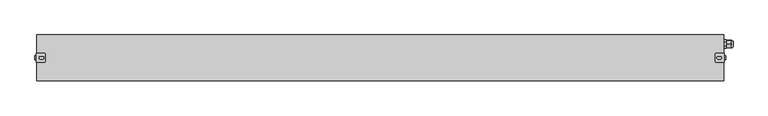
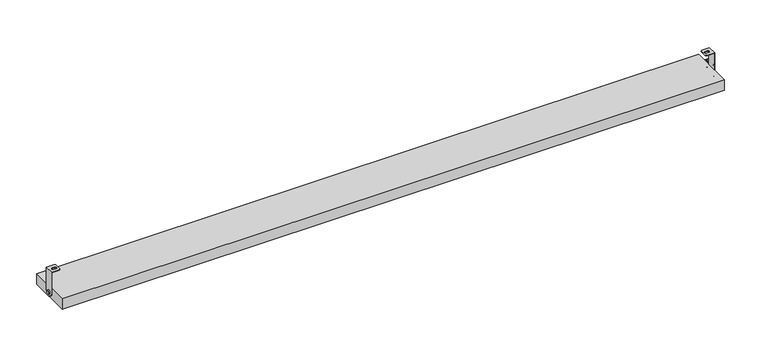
"""IFC4 building model written with IfcOpenShell, lengths in millimetres: light fixture geometry, GENILED_Светильник светодиодный_Titan Advanced : Titan Advanced 1500x100x25 60Вт IP66 Опал."""

from ifc_helpers import new_model, si_unit, point, frame, frame_2d, origin, origin_with_axes, place, context, project, spatial, polyline, circle_curve, ellipse_curve, trimmed, segment, composite_curve, outline, extrude, source, transform, mapped, element, save
from ifc_brep_helpers import plane_surface, cylinder_surface, revolved_surface, advanced_brep


def light_fixture_13f974ab(model_context):
    return source(origin(), model_context, "Body", "SolidModel", [
        advanced_brep(
        [(-734.0, 10.0, 64.5), (-751.0, 10.0, 64.5), (-751.0, -10.0, 64.5), (-734.0, -10.0, 64.5), (-731.0, -7.0, 64.5), (-731.0, 7.0, 64.5), (-737.0, 2.75, 64.5), (-737.0, -2.75, 64.5), (-742.0, -2.75, 64.5), (-742.0, 2.75, 64.5), (-734.0, -10.0, 63.5), (-750.0, -10.0, 63.5), (-750.0, 10.0, 63.5), (-734.0, 10.0, 63.5), (-731.0, 7.0, 63.5), (-731.0, -7.0, 63.5), (-737.0, 2.75, 63.5), (-742.0, 2.75, 63.5), (-742.0, -2.75, 63.5), (-737.0, -2.75, 63.5), (-751.0, -10.0, 12.5), (-750.0, -10.0, 12.5), (-751.0, 10.0, 12.5), (-751.0, 2.0, 4.5), (-751.0, -2.0, 4.5), (-751.0, 4.0, 12.5), (-751.0, -4.0, 12.5), (-750.0, 10.0, 12.5), (-750.0, -2.0, 4.5), (-750.0, 2.0, 4.5), (-754.0, -4.0, 12.5), (-754.0, 4.0, 12.5)],
        [
            (0, 1),
            (1, 2),
            (2, 3),
            (3, 4, circle_curve(frame((-734.0, -7.0, 64.5), z_axis=(0.0, 0.0, 1.0), x_axis=(-1.0, 0.0, 0.0)), 3.0)),
            (4, 5),
            (5, 0, circle_curve(frame((-734.0, 7.0, 64.5), z_axis=(0.0, 0.0, 1.0), x_axis=(-1.0, 0.0, 0.0)), 3.0)),
            (6, 7, circle_curve(frame((-737.0, 0.0, 64.5), z_axis=(0.0, 0.0, -1.0), x_axis=(-1.0, 0.0, 0.0)), 2.75)),
            (7, 8),
            (8, 9, circle_curve(frame((-742.0, 0.0, 64.5), z_axis=(0.0, 0.0, -1.0), x_axis=(-1.0, 0.0, 0.0)), 2.75)),
            (9, 6),
            (10, 11),
            (11, 12),
            (12, 13),
            (13, 14, circle_curve(frame((-734.0, 7.0, 63.5), z_axis=(0.0, 0.0, -1.0), x_axis=(-1.0, 0.0, 0.0)), 3.0)),
            (14, 15),
            (15, 10, circle_curve(frame((-734.0, -7.0, 63.5), z_axis=(0.0, 0.0, -1.0), x_axis=(-1.0, 0.0, 0.0)), 3.0)),
            (16, 17),
            (17, 18, circle_curve(frame((-742.0, 0.0, 63.5), z_axis=(0.0, 0.0, 1.0), x_axis=(-1.0, 0.0, 0.0)), 2.75)),
            (18, 19),
            (19, 16, circle_curve(frame((-737.0, 0.0, 63.5), z_axis=(0.0, 0.0, 1.0), x_axis=(-1.0, 0.0, 0.0)), 2.75)),
            (5, 14),
            (13, 0),
            (4, 15),
            (3, 10),
            (2, 20),
            (20, 21),
            (21, 11),
            (1, 22),
            (22, 23, circle_curve(frame((-751.0, 2.0, 12.5), z_axis=(-1.0, 0.0, 0.0), x_axis=(0.0, 1.0, 0.0)), 8.0)),
            (23, 24),
            (24, 20, circle_curve(frame((-751.0, -2.0, 12.5), z_axis=(-1.0, 0.0, 0.0), x_axis=(0.0, 1.0, 0.0)), 8.0)),
            (25, 26, circle_curve(frame((-751.0, 0.0, 12.5), z_axis=(1.0, 0.0, 0.0), x_axis=(0.0, 1.0, 0.0)), 4.0)),
            (26, 25, circle_curve(frame((-751.0, 0.0, 12.5), z_axis=(1.0, 0.0, 0.0), x_axis=(0.0, 1.0, 0.0)), 4.0)),
            (12, 27),
            (27, 22),
            (9, 17),
            (16, 6),
            (8, 18),
            (7, 19),
            (21, 28, circle_curve(frame((-750.0, -2.0, 12.5), z_axis=(1.0, 0.0, 0.0), x_axis=(0.0, 1.0, 0.0)), 8.0)),
            (28, 29),
            (29, 27, circle_curve(frame((-750.0, 2.0, 12.5), z_axis=(1.0, 0.0, 0.0), x_axis=(0.0, 1.0, 0.0)), 8.0)),
            (24, 28),
            (23, 29),
            (30, 31, circle_curve(frame((-754.0, 0.0, 12.5), z_axis=(-1.0, 0.0, 0.0), x_axis=(0.0, 1.0, 0.0)), 4.0)),
            (31, 30, circle_curve(frame((-754.0, 0.0, 12.5), z_axis=(-1.0, 0.0, 0.0), x_axis=(0.0, 1.0, 0.0)), 4.0)),
            (31, 25),
            (26, 30),
        ],
        [
            plane_surface(frame((-737.0, 7.0, 64.5), z_axis=(0.0, 0.0, 1.0), x_axis=(0.0, 1.0, 0.0))),
            plane_surface(frame((-737.0, 7.0, 63.5), z_axis=(0.0, 0.0, -1.0), x_axis=(0.0, -1.0, 0.0))),
            cylinder_surface(frame((-734.0, 7.0, 63.5), z_axis=(0.0, 0.0, 1.0), x_axis=(-1.0, 0.0, 0.0)), 3.0),
            plane_surface(frame((-731.0, 7.0, 64.5), z_axis=(1.0, 0.0, 0.0), x_axis=(0.0, 0.0, -1.0))),
            cylinder_surface(frame((-734.0, -7.0, 63.5), z_axis=(0.0, 0.0, 1.0), x_axis=(-1.0, 0.0, 0.0)), 3.0),
            plane_surface(frame((-734.0, -10.0, 64.5), z_axis=(0.0, -1.0, 0.0), x_axis=(0.0, 0.0, -1.0))),
            plane_surface(frame((-751.0, -10.0, 64.5), z_axis=(-1.0, 0.0, 0.0), x_axis=(0.0, 0.0, -1.0))),
            plane_surface(frame((-751.0, 10.0, 64.5), z_axis=(0.0, 1.0, 0.0), x_axis=(0.0, 0.0, -1.0))),
            plane_surface(frame((-737.0, 2.75, 64.5), z_axis=(0.0, -1.0, 0.0), x_axis=(0.0, 0.0, -1.0))),
            revolved_surface(polyline([(-744.75, 0.0, 63.5), (-744.75, 0.0, 64.5)]), (-742.0, 0.0, 12.5), (0.0, 0.0, -1.0)),
            plane_surface(frame((-742.0, -2.75, 64.5), z_axis=(0.0, 1.0, 0.0), x_axis=(0.0, 0.0, -1.0))),
            revolved_surface(polyline([(-739.75, 0.0, 63.5), (-739.75, 0.0, 64.5)]), (-737.0, 0.0, 12.5), (0.0, 0.0, -1.0)),
            plane_surface(frame((-750.0, -10.0, 64.5), z_axis=(1.0, 0.0, 0.0), x_axis=(0.0, 1.0, 0.0))),
            cylinder_surface(frame((-750.0, -2.0, 12.5), z_axis=(-1.0, 0.0, 0.0), x_axis=(0.0, 1.0, 0.0)), 8.0),
            plane_surface(frame((-751.0, -2.0, 4.5), z_axis=(0.0, 0.0, -1.0), x_axis=(1.0, 0.0, 0.0))),
            cylinder_surface(frame((-750.0, 2.0, 12.5), z_axis=(-1.0, 0.0, 0.0), x_axis=(0.0, 1.0, 0.0)), 8.0),
            plane_surface(frame((-754.0, 4.0, 12.5), z_axis=(-1.0, 0.0, 0.0), x_axis=(0.0, 0.0, 1.0))),
            cylinder_surface(frame((-751.0, 0.0, 12.5), z_axis=(-1.0, 0.0, 0.0), x_axis=(0.0, 1.0, 0.0)), 4.0),
        ],
        [
            (0, [[1, 2, 3, 4, 5, 6], [7, 8, 9, 10]]),
            (1, [[11, 12, 13, 14, 15, 16], [17, 18, 19, 20]]),
            (2, [[21, -14, 22, -6]]),
            (3, [[23, -15, -21, -5]]),
            (4, [[24, -16, -23, -4]]),
            (5, [[-3, 25, 26, 27, -11, -24]]),
            (6, [[28, 29, 30, 31, -25, -2], [32, 33]]),
            (7, [[-13, 34, 35, -28, -1, -22]]),
            (8, [[36, -17, 37, -10]]),
            (9, [[38, -18, -36, -9]]),
            (10, [[39, -19, -38, -8]]),
            (11, [[-37, -20, -39, -7]]),
            (12, [[-34, -12, -27, 40, 41, 42]]),
            (13, [[43, -40, -26, -31]]),
            (14, [[44, -41, -43, -30]]),
            (15, [[-35, -42, -44, -29]]),
            (16, [[45, 46]]),
            (17, [[47, -33, 48, -46]]),
            (17, [[-48, -32, -47, -45]]),
        ],
    ),
        advanced_brep(
        [(734.0, 10.0, 64.5), (731.0, 7.0, 64.5), (731.0, -7.0, 64.5), (734.0, -10.0, 64.5), (751.0, -10.0, 64.5), (751.0, 10.0, 64.5), (737.0, 2.75, 64.5), (742.0, 2.75, 64.5), (742.0, -2.75, 64.5), (737.0, -2.75, 64.5), (734.0, -10.0, 63.5), (731.0, -7.0, 63.5), (731.0, 7.0, 63.5), (734.0, 10.0, 63.5), (750.0, 10.0, 63.5), (750.0, -10.0, 63.5), (737.0, 2.75, 63.5), (737.0, -2.75, 63.5), (742.0, -2.75, 63.5), (742.0, 2.75, 63.5), (750.0, -10.0, 12.5), (751.0, -10.0, 12.5), (751.0, -2.0, 4.5), (751.0, 2.0, 4.5), (751.0, 10.0, 12.5), (751.0, 4.0, 12.5), (751.0, -4.0, 12.5), (750.0, 10.0, 12.5), (750.0, 2.0, 4.5), (750.0, -2.0, 4.5), (754.0, -4.0, 12.5), (754.0, 4.0, 12.5)],
        [
            (0, 1, circle_curve(frame((734.0, 7.0, 64.5), z_axis=(0.0, 0.0, 1.0), x_axis=(1.0, 0.0, 0.0)), 3.0)),
            (1, 2),
            (2, 3, circle_curve(frame((734.0, -7.0, 64.5), z_axis=(0.0, 0.0, 1.0), x_axis=(1.0, 0.0, 0.0)), 3.0)),
            (3, 4),
            (4, 5),
            (5, 0),
            (6, 7),
            (7, 8, circle_curve(frame((742.0, 0.0, 64.5), z_axis=(0.0, 0.0, -1.0), x_axis=(1.0, 0.0, 0.0)), 2.75)),
            (8, 9),
            (9, 6, circle_curve(frame((737.0, 0.0, 64.5), z_axis=(0.0, 0.0, -1.0), x_axis=(1.0, 0.0, 0.0)), 2.75)),
            (10, 11, circle_curve(frame((734.0, -7.0, 63.5), z_axis=(0.0, 0.0, -1.0), x_axis=(1.0, 0.0, 0.0)), 3.0)),
            (11, 12),
            (12, 13, circle_curve(frame((734.0, 7.0, 63.5), z_axis=(0.0, 0.0, -1.0), x_axis=(1.0, 0.0, 0.0)), 3.0)),
            (13, 14),
            (14, 15),
            (15, 10),
            (16, 17, circle_curve(frame((737.0, 0.0, 63.5), z_axis=(0.0, 0.0, 1.0), x_axis=(1.0, 0.0, 0.0)), 2.75)),
            (17, 18),
            (18, 19, circle_curve(frame((742.0, 0.0, 63.5), z_axis=(0.0, 0.0, 1.0), x_axis=(1.0, 0.0, 0.0)), 2.75)),
            (19, 16),
            (0, 13),
            (12, 1),
            (11, 2),
            (10, 3),
            (15, 20),
            (20, 21),
            (21, 4),
            (21, 22, circle_curve(frame((751.0, -2.0, 12.5), z_axis=(1.0, 0.0, 0.0), x_axis=(0.0, 1.0, 0.0)), 8.0)),
            (22, 23),
            (23, 24, circle_curve(frame((751.0, 2.0, 12.5), z_axis=(1.0, 0.0, 0.0), x_axis=(0.0, 1.0, 0.0)), 8.0)),
            (24, 5),
            (25, 26, circle_curve(frame((751.0, 0.0, 12.5), z_axis=(-1.0, 0.0, 0.0), x_axis=(0.0, 1.0, 0.0)), 4.0)),
            (26, 25, circle_curve(frame((751.0, 0.0, 12.5), z_axis=(-1.0, 0.0, 0.0), x_axis=(0.0, 1.0, 0.0)), 4.0)),
            (24, 27),
            (27, 14),
            (6, 16),
            (19, 7),
            (18, 8),
            (17, 9),
            (27, 28, circle_curve(frame((750.0, 2.0, 12.5), z_axis=(-1.0, 0.0, 0.0), x_axis=(0.0, 1.0, 0.0)), 8.0)),
            (28, 29),
            (29, 20, circle_curve(frame((750.0, -2.0, 12.5), z_axis=(-1.0, 0.0, 0.0), x_axis=(0.0, 1.0, 0.0)), 8.0)),
            (29, 22),
            (28, 23),
            (30, 31, circle_curve(frame((754.0, 0.0, 12.5), z_axis=(1.0, 0.0, 0.0), x_axis=(0.0, 1.0, 0.0)), 4.0)),
            (31, 30, circle_curve(frame((754.0, 0.0, 12.5), z_axis=(1.0, 0.0, 0.0), x_axis=(0.0, 1.0, 0.0)), 4.0)),
            (30, 26),
            (25, 31),
        ],
        [
            plane_surface(frame((737.0, 7.0, 64.5), z_axis=(0.0, 0.0, 1.0), x_axis=(0.0, 1.0, 0.0))),
            plane_surface(frame((737.0, 7.0, 63.5), z_axis=(0.0, 0.0, -1.0), x_axis=(0.0, -1.0, 0.0))),
            cylinder_surface(frame((734.0, 7.0, 63.5), z_axis=(0.0, 0.0, 1.0), x_axis=(1.0, 0.0, 0.0)), 3.0),
            plane_surface(frame((731.0, 7.0, 64.5), z_axis=(-1.0, 0.0, 0.0), x_axis=(0.0, 0.0, -1.0))),
            cylinder_surface(frame((734.0, -7.0, 63.5), z_axis=(0.0, 0.0, 1.0), x_axis=(1.0, 0.0, 0.0)), 3.0),
            plane_surface(frame((734.0, -10.0, 64.5), z_axis=(0.0, -1.0, 0.0), x_axis=(0.0, 0.0, -1.0))),
            plane_surface(frame((751.0, -10.0, 64.5), z_axis=(1.0, 0.0, 0.0), x_axis=(0.0, 0.0, -1.0))),
            plane_surface(frame((751.0, 10.0, 64.5), z_axis=(0.0, 1.0, 0.0), x_axis=(0.0, 0.0, -1.0))),
            plane_surface(frame((737.0, 2.75, 64.5), z_axis=(0.0, -1.0, 0.0), x_axis=(0.0, 0.0, -1.0))),
            revolved_surface(polyline([(744.75, 0.0, 63.5), (744.75, 0.0, 64.5)]), (742.0, 0.0, 12.5), (0.0, 0.0, -1.0)),
            plane_surface(frame((742.0, -2.75, 64.5), z_axis=(0.0, 1.0, 0.0), x_axis=(0.0, 0.0, -1.0))),
            revolved_surface(polyline([(739.75, 0.0, 63.5), (739.75, 0.0, 64.5)]), (737.0, 0.0, 12.5), (0.0, 0.0, -1.0)),
            plane_surface(frame((750.0, -10.0, 64.5), z_axis=(-1.0, 0.0, 0.0), x_axis=(0.0, 1.0, 0.0))),
            cylinder_surface(frame((750.0, -2.0, 12.5), z_axis=(1.0, 0.0, 0.0), x_axis=(0.0, 1.0, 0.0)), 8.0),
            plane_surface(frame((751.0, -2.0, 4.5), z_axis=(0.0, 0.0, -1.0), x_axis=(-1.0, 0.0, 0.0))),
            cylinder_surface(frame((750.0, 2.0, 12.5), z_axis=(1.0, 0.0, 0.0), x_axis=(0.0, 1.0, 0.0)), 8.0),
            plane_surface(frame((754.0, 4.0, 12.5), z_axis=(1.0, 0.0, 0.0), x_axis=(0.0, 0.0, 1.0))),
            cylinder_surface(frame((751.0, 0.0, 12.5), z_axis=(1.0, 0.0, 0.0), x_axis=(0.0, 1.0, 0.0)), 4.0),
        ],
        [
            (0, [[1, 2, 3, 4, 5, 6], [7, 8, 9, 10]]),
            (1, [[11, 12, 13, 14, 15, 16], [17, 18, 19, 20]]),
            (2, [[-1, 21, -13, 22]]),
            (3, [[-2, -22, -12, 23]]),
            (4, [[-3, -23, -11, 24]]),
            (5, [[-24, -16, 25, 26, 27, -4]]),
            (6, [[-5, -27, 28, 29, 30, 31], [32, 33]]),
            (7, [[-21, -6, -31, 34, 35, -14]]),
            (8, [[-7, 36, -20, 37]]),
            (9, [[-8, -37, -19, 38]]),
            (10, [[-9, -38, -18, 39]]),
            (11, [[-10, -39, -17, -36]]),
            (12, [[40, 41, 42, -25, -15, -35]]),
            (13, [[-28, -26, -42, 43]]),
            (14, [[-29, -43, -41, 44]]),
            (15, [[-30, -44, -40, -34]]),
            (16, [[45, 46]]),
            (17, [[-45, 47, -32, 48]]),
            (17, [[-46, -48, -33, -47]]),
        ],
    ),
        advanced_brep(
        [(770.0120269, 24.15, 12.5), (770.0120269, 35.85, 12.5), (770.0120269, 33.5, 12.5), (770.0120269, 26.5, 12.5), (766.0120269, 22.0, 12.5), (766.0120269, 26.0, 5.5717968), (766.0120269, 34.0, 5.5717968), (766.0120269, 38.0, 12.5), (766.0120269, 34.0, 19.4282032), (766.0120269, 26.0, 19.4282032), (766.0120269, 33.5, 12.5), (766.0120269, 26.5, 12.5), (766.0120269, 22.0, 8.3768944), (766.0120269, 22.4292858, 7.6333496), (766.0120269, 29.5707142, 3.510244), (766.0120269, 30.4292858, 3.510244), (766.0120269, 37.5707142, 7.6333496), (766.0120269, 38.0, 8.3768944), (766.0120269, 38.0, 16.6231056), (766.0120269, 37.5707142, 17.3666504), (766.0120269, 30.4292858, 21.489756), (766.0120269, 29.5707142, 21.489756), (766.0120269, 22.4292858, 17.3666504), (766.0120269, 22.0, 16.6231056), (756.6, 29.5707142, 3.510244), (756.6, 22.4292858, 7.6333496), (756.6, 22.0, 8.3768944), (756.6, 22.0, 16.6231056), (756.6, 22.4292858, 17.3666504), (756.6, 29.5707142, 21.489756), (756.6, 30.4292858, 21.489756), (756.6, 37.5707142, 17.3666504), (756.6, 38.0, 16.6231056), (756.6, 38.0, 8.3768944), (756.6, 37.5707142, 7.6333496), (756.6, 30.4292858, 3.510244), (756.6, 37.25, 12.5), (756.6, 22.75, 12.5), (754.6, 37.25, 12.5), (754.6, 22.75, 12.5), (754.6, 38.989756, 12.9292858), (754.6, 34.8666504, 20.0707142), (754.6, 34.1231056, 20.5), (754.6, 25.8768944, 20.5), (754.6, 25.1333496, 20.0707142), (754.6, 21.010244, 12.9292858), (754.6, 21.0, 12.5), (754.6, 21.010244, 12.0707142), (754.6, 25.1333496, 4.9292858), (754.6, 25.8768944, 4.5), (754.6, 34.1231056, 4.5), (754.6, 34.8666504, 4.9292858), (754.6, 38.989756, 12.0707142), (754.6, 39.0, 12.5), (750.0, 38.989756, 12.0707142), (750.0, 34.8666504, 4.9292858), (750.0, 34.1231056, 4.5), (750.0, 25.8768944, 4.5), (750.0, 25.1333496, 4.9292858), (750.0, 21.010244, 12.0707142), (750.0, 21.0, 12.5), (750.0, 21.010244, 12.9292858), (750.0, 25.1333496, 20.0707142), (750.0, 25.8768944, 20.5), (750.0, 34.1231056, 20.5), (750.0, 34.8666504, 20.0707142), (750.0, 38.989756, 12.9292858), (750.0, 39.0, 12.5)],
        [
            (0, 1, circle_curve(frame((770.0120269, 30.0, 12.5), z_axis=(1.0, 0.0, 0.0), x_axis=(0.0, 1.0, 0.0)), 5.85)),
            (1, 2),
            (2, 3, circle_curve(frame((770.0120269, 30.0, 12.5), z_axis=(-1.0, 0.0, 0.0), x_axis=(0.0, 1.0, 0.0)), 3.5)),
            (3, 0),
            (1, 0, circle_curve(frame((770.0120269, 30.0, 12.5), z_axis=(1.0, 0.0, 0.0), x_axis=(0.0, 1.0, 0.0)), 5.85)),
            (3, 2, circle_curve(frame((770.0120269, 30.0, 12.5), z_axis=(-1.0, 0.0, 0.0), x_axis=(0.0, 1.0, 0.0)), 3.5)),
            (0, 4, circle_curve(frame((765.6269324, 27.5123851, 12.5), z_axis=(0.0, 0.0, -1.0), x_axis=(0.0, 1.0, 0.0)), 5.5258201)),
            (4, 5, circle_curve(frame((766.0120269, 30.0, 12.5), z_axis=(1.0, 0.0, 0.0), x_axis=(0.0, 1.0, 0.0)), 8.0)),
            (5, 6, circle_curve(frame((766.0120269, 30.0, 12.5), z_axis=(1.0, 0.0, 0.0), x_axis=(0.0, 1.0, 0.0)), 8.0)),
            (6, 7, circle_curve(frame((766.0120269, 30.0, 12.5), z_axis=(1.0, 0.0, 0.0), x_axis=(0.0, 1.0, 0.0)), 8.0)),
            (7, 1, circle_curve(frame((765.6269324, 32.4876149, 12.5), z_axis=(0.0, 0.0, -1.0), x_axis=(0.0, -1.0, 0.0)), 5.5258201)),
            (7, 8, circle_curve(frame((766.0120269, 30.0, 12.5), z_axis=(1.0, 0.0, 0.0), x_axis=(0.0, 1.0, 0.0)), 8.0)),
            (8, 9, circle_curve(frame((766.0120269, 30.0, 12.5), z_axis=(1.0, 0.0, 0.0), x_axis=(0.0, 1.0, 0.0)), 8.0)),
            (9, 4, circle_curve(frame((766.0120269, 30.0, 12.5), z_axis=(1.0, 0.0, 0.0), x_axis=(0.0, 1.0, 0.0)), 8.0)),
            (2, 10),
            (10, 11, circle_curve(frame((766.0120269, 30.0, 12.5), z_axis=(-1.0, 0.0, 0.0), x_axis=(0.0, 1.0, 0.0)), 3.5)),
            (11, 3),
            (11, 10, circle_curve(frame((766.0120269, 30.0, 12.5), z_axis=(-1.0, 0.0, 0.0), x_axis=(0.0, 1.0, 0.0)), 3.5)),
            (4, 12),
            (12, 13, circle_curve(frame((766.0120269, 30.0, 12.5), z_axis=(1.0, 0.0, 0.0), x_axis=(0.0, -1.0, 0.0)), 9.0)),
            (13, 5),
            (5, 14),
            (14, 15, circle_curve(frame((766.0120269, 30.0, 12.5), z_axis=(1.0, 0.0, 0.0), x_axis=(0.0, -1.0, 0.0)), 9.0)),
            (15, 6),
            (6, 16),
            (16, 17, circle_curve(frame((766.0120269, 30.0, 12.5), z_axis=(1.0, 0.0, 0.0), x_axis=(0.0, -1.0, 0.0)), 9.0)),
            (17, 7),
            (7, 18),
            (18, 19, circle_curve(frame((766.0120269, 30.0, 12.5), z_axis=(1.0, 0.0, 0.0), x_axis=(0.0, -1.0, 0.0)), 9.0)),
            (19, 8),
            (8, 20),
            (20, 21, circle_curve(frame((766.0120269, 30.0, 12.5), z_axis=(1.0, 0.0, 0.0), x_axis=(0.0, -1.0, 0.0)), 9.0)),
            (21, 9),
            (9, 22),
            (22, 23, circle_curve(frame((766.0120269, 30.0, 12.5), z_axis=(1.0, 0.0, 0.0), x_axis=(0.0, -1.0, 0.0)), 9.0)),
            (23, 4),
            (24, 25),
            (25, 26, circle_curve(frame((756.6, 30.0, 12.5), z_axis=(-1.0, 0.0, 0.0), x_axis=(0.0, -1.0, 0.0)), 9.0)),
            (26, 27),
            (27, 28, circle_curve(frame((756.6, 30.0, 12.5), z_axis=(-1.0, 0.0, 0.0), x_axis=(0.0, -1.0, 0.0)), 9.0)),
            (28, 29),
            (29, 30, circle_curve(frame((756.6, 30.0, 12.5), z_axis=(-1.0, 0.0, 0.0), x_axis=(0.0, -1.0, 0.0)), 9.0)),
            (30, 31),
            (31, 32, circle_curve(frame((756.6, 30.0, 12.5), z_axis=(-1.0, 0.0, 0.0), x_axis=(0.0, -1.0, 0.0)), 9.0)),
            (32, 33),
            (33, 34, circle_curve(frame((756.6, 30.0, 12.5), z_axis=(-1.0, 0.0, 0.0), x_axis=(0.0, -1.0, 0.0)), 9.0)),
            (34, 35),
            (35, 24, circle_curve(frame((756.6, 30.0, 12.5), z_axis=(-1.0, 0.0, 0.0), x_axis=(0.0, -1.0, 0.0)), 9.0)),
            (36, 37, circle_curve(frame((756.6, 30.0, 12.5), z_axis=(1.0, 0.0, 0.0), x_axis=(0.0, -1.0, 0.0)), 7.25)),
            (37, 36, circle_curve(frame((756.6, 30.0, 12.5), z_axis=(1.0, 0.0, 0.0), x_axis=(0.0, -1.0, 0.0)), 7.25)),
            (15, 35),
            (34, 16),
            (17, 33),
            (32, 18),
            (19, 31),
            (30, 20),
            (21, 29),
            (28, 22),
            (23, 27),
            (26, 12),
            (13, 25),
            (24, 14),
            (36, 38),
            (38, 39, circle_curve(frame((754.6, 30.0, 12.5), z_axis=(1.0, 0.0, 0.0), x_axis=(0.0, -1.0, 0.0)), 7.25)),
            (39, 37),
            (39, 38, circle_curve(frame((754.6, 30.0, 12.5), z_axis=(1.0, 0.0, 0.0), x_axis=(0.0, -1.0, 0.0)), 7.25)),
            (40, 41),
            (41, 42, circle_curve(frame((754.6, 30.0, 12.5), z_axis=(1.0, 0.0, 0.0), x_axis=(0.0, -1.0, 0.0)), 9.0)),
            (42, 43),
            (43, 44, circle_curve(frame((754.6, 30.0, 12.5), z_axis=(1.0, 0.0, 0.0), x_axis=(0.0, -1.0, 0.0)), 9.0)),
            (44, 45),
            (45, 46, circle_curve(frame((754.6, 30.0, 12.5), z_axis=(1.0, 0.0, 0.0), x_axis=(0.0, -1.0, 0.0)), 9.0)),
            (46, 47, circle_curve(frame((754.6, 30.0, 12.5), z_axis=(1.0, 0.0, 0.0), x_axis=(0.0, -1.0, 0.0)), 9.0)),
            (47, 48),
            (48, 49, circle_curve(frame((754.6, 30.0, 12.5), z_axis=(1.0, 0.0, 0.0), x_axis=(0.0, -1.0, 0.0)), 9.0)),
            (49, 50),
            (50, 51, circle_curve(frame((754.6, 30.0, 12.5), z_axis=(1.0, 0.0, 0.0), x_axis=(0.0, -1.0, 0.0)), 9.0)),
            (51, 52),
            (52, 53, circle_curve(frame((754.6, 30.0, 12.5), z_axis=(1.0, 0.0, 0.0), x_axis=(0.0, -1.0, 0.0)), 9.0)),
            (53, 40, circle_curve(frame((754.6, 30.0, 12.5), z_axis=(1.0, 0.0, 0.0), x_axis=(0.0, -1.0, 0.0)), 9.0)),
            (54, 55),
            (55, 56, circle_curve(frame((750.0, 30.0, 12.5), z_axis=(-1.0, 0.0, 0.0), x_axis=(0.0, -1.0, 0.0)), 9.0)),
            (56, 57),
            (57, 58, circle_curve(frame((750.0, 30.0, 12.5), z_axis=(-1.0, 0.0, 0.0), x_axis=(0.0, -1.0, 0.0)), 9.0)),
            (58, 59),
            (59, 60, circle_curve(frame((750.0, 30.0, 12.5), z_axis=(-1.0, 0.0, 0.0), x_axis=(0.0, -1.0, 0.0)), 9.0)),
            (60, 61, circle_curve(frame((750.0, 30.0, 12.5), z_axis=(-1.0, 0.0, 0.0), x_axis=(0.0, -1.0, 0.0)), 9.0)),
            (61, 62),
            (62, 63, circle_curve(frame((750.0, 30.0, 12.5), z_axis=(-1.0, 0.0, 0.0), x_axis=(0.0, -1.0, 0.0)), 9.0)),
            (63, 64),
            (64, 65, circle_curve(frame((750.0, 30.0, 12.5), z_axis=(-1.0, 0.0, 0.0), x_axis=(0.0, -1.0, 0.0)), 9.0)),
            (65, 66),
            (66, 67, circle_curve(frame((750.0, 30.0, 12.5), z_axis=(-1.0, 0.0, 0.0), x_axis=(0.0, -1.0, 0.0)), 9.0)),
            (67, 54, circle_curve(frame((750.0, 30.0, 12.5), z_axis=(-1.0, 0.0, 0.0), x_axis=(0.0, -1.0, 0.0)), 9.0)),
            (40, 66),
            (65, 41),
            (42, 64),
            (63, 43),
            (44, 62),
            (61, 45),
            (47, 59),
            (58, 48),
            (49, 57),
            (56, 50),
            (51, 55),
            (54, 52),
            (67, 53),
            (46, 60),
        ],
        [
            plane_surface(frame((770.0120269, 30.0, 12.5), z_axis=(1.0, 0.0, 0.0), x_axis=(0.0, 1.0, 0.0))),
            revolved_surface(trimmed(ellipse_curve(frame((765.6269324, 32.4876149, 12.5), z_axis=(0.0, 0.0, 1.0), x_axis=(0.0, -1.0, 0.0)), 5.5258201, 5.5258201), [point((770.0120269, 35.85, 12.5))], [point((766.0120269, 38.0, 12.5))], True, "CARTESIAN"), (766.0120269, 30.0, 12.5), (-1.0, 0.0, 0.0)),
            revolved_surface(polyline([(766.0120269, 33.5, 12.5), (770.0120269, 33.5, 12.5)]), (766.0120269, 30.0, 12.5), (-1.0, 0.0, 0.0)),
            plane_surface(frame((766.0120269, 30.0, 3.2623957), z_axis=(1.0000000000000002, 0.0, 0.0), x_axis=(0.0, 0.8660254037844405, 0.49999999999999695))),
            plane_surface(frame((756.6, 30.0, 3.2623957), z_axis=(-1.0000000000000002, 0.0, 0.0), x_axis=(0.0, -0.8660254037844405, -0.49999999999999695))),
            plane_surface(frame((766.0120269, 30.0, 3.2623957), z_axis=(0.0, 0.49999999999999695, -0.8660254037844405), x_axis=(-1.0, 0.0, 0.0))),
            plane_surface(frame((766.0120269, 38.0, 7.8811978), z_axis=(0.0, 1.0, 0.0), x_axis=(-1.0, 0.0, 0.0))),
            plane_surface(frame((766.0120269, 38.0, 17.1188022), z_axis=(0.0, 0.5000000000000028, 0.8660254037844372), x_axis=(-1.0, 0.0, 0.0))),
            plane_surface(frame((766.0120269, 30.0, 21.7376043), z_axis=(0.0, -0.49999999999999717, 0.8660254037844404), x_axis=(-1.0, 0.0, 0.0))),
            plane_surface(frame((766.0120269, 22.0, 17.1188022), z_axis=(0.0, -1.0, 0.0), x_axis=(-1.0, 0.0, 0.0))),
            plane_surface(frame((766.0120269, 22.0, 7.8811978), z_axis=(0.0, -0.5000000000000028, -0.8660254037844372), x_axis=(-1.0, 0.0, 0.0))),
            cylinder_surface(frame((754.6, 30.0, 12.5), z_axis=(1.0, 0.0, 0.0), x_axis=(0.0, -1.0, 0.0)), 7.25),
            plane_surface(frame((754.6, 39.2376043, 12.5), z_axis=(1.0, 0.0, 0.0), x_axis=(0.0, -0.5000000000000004, 0.8660254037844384))),
            plane_surface(frame((750.0, 39.2376043, 12.5), z_axis=(-1.0, 0.0, 0.0), x_axis=(0.0, 0.5000000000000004, -0.8660254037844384))),
            plane_surface(frame((754.6, 39.2376043, 12.5), z_axis=(0.0, 0.8660254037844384, 0.5000000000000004), x_axis=(-1.0, 0.0, 0.0))),
            plane_surface(frame((754.6, 34.6188022, 20.5), z_axis=(0.0, 0.0, 1.0), x_axis=(-1.0, 0.0, 0.0))),
            plane_surface(frame((754.6, 25.3811978, 20.5), z_axis=(0.0, -0.866025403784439, 0.49999999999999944), x_axis=(-1.0, 0.0, 0.0))),
            plane_surface(frame((754.6, 20.7623957, 12.5), z_axis=(0.0, -0.8660254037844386, -0.5000000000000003), x_axis=(-1.0, 0.0, 0.0))),
            plane_surface(frame((754.6, 25.3811978, 4.5), z_axis=(0.0, 0.0, -1.0), x_axis=(-1.0, 0.0, 0.0))),
            plane_surface(frame((754.6, 34.6188022, 4.5), z_axis=(0.0, 0.8660254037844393, -0.49999999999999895), x_axis=(-1.0, 0.0, 0.0))),
            cylinder_surface(frame((750.0, 30.0, 12.5), z_axis=(-1.0, 0.0, 0.0), x_axis=(0.0, -1.0, 0.0)), 9.0),
        ],
        [
            (0, [[1, 2, 3, 4]]),
            (0, [[-2, 5, -4, 6]]),
            (1, [[-1, 7, 8, 9, 10, 11]]),
            (1, [[-5, -11, 12, 13, 14, -7]]),
            (2, [[-3, 15, 16, 17]]),
            (2, [[-6, -17, 18, -15]]),
            (3, [[-8, 19, 20, 21]]),
            (3, [[-9, 22, 23, 24]]),
            (3, [[-10, 25, 26, 27]]),
            (3, [[-12, 28, 29, 30]]),
            (3, [[-13, 31, 32, 33]]),
            (3, [[-14, 34, 35, 36]]),
            (3, [[-16, -18]]),
            (4, [[37, 38, 39, 40, 41, 42, 43, 44, 45, 46, 47, 48], [49, 50]]),
            (5, [[-25, -24, 51, -47, 52]]),
            (6, [[-27, 53, -45, 54, -28]]),
            (7, [[-30, 55, -43, 56, -31]]),
            (8, [[-34, -33, 57, -41, 58]]),
            (9, [[-36, 59, -39, 60, -19]]),
            (10, [[-21, 61, -37, 62, -22]]),
            (11, [[63, 64, 65, -49]]),
            (11, [[-63, -50, -65, 66]]),
            (12, [[67, 68, 69, 70, 71, 72, 73, 74, 75, 76, 77, 78, 79, 80], [-64, -66]]),
            (13, [[81, 82, 83, 84, 85, 86, 87, 88, 89, 90, 91, 92, 93, 94]]),
            (14, [[-67, 95, -92, 96]]),
            (15, [[-69, 97, -90, 98]]),
            (16, [[-71, 99, -88, 100]]),
            (17, [[-74, 101, -85, 102]]),
            (18, [[-76, 103, -83, 104]]),
            (19, [[-78, 105, -81, 106]]),
            (20, [[-20, -60, -38, -61]]),
            (20, [[-23, -62, -48, -51]]),
            (20, [[-26, -52, -46, -53]]),
            (20, [[-75, -102, -84, -103]]),
            (20, [[-77, -104, -82, -105]]),
            (20, [[107, -79, -106, -94]]),
            (20, [[108, -86, -101, -73]]),
            (20, [[-29, -54, -44, -55]]),
            (20, [[-32, -56, -42, -57]]),
            (20, [[-35, -58, -40, -59]]),
            (20, [[-68, -96, -91, -97]]),
            (20, [[-70, -98, -89, -99]]),
            (20, [[-107, -93, -95, -80]]),
            (20, [[-108, -72, -100, -87]]),
        ],
    ),
        advanced_brep(
        [(750.0, 50.0, 25.0), (-750.0, 50.0, 25.0), (-750.0, -50.0, 25.0), (750.0, -50.0, 25.0), (750.0, 50.0, 0.0), (750.0, -50.0, 0.0), (-750.0, -50.0, 0.0), (-750.0, 50.0, 0.0), (720.0, 35.0, 0.0), (-720.0, 35.0, 0.0), (-735.0, 20.0, 0.0), (-735.0, -20.0, 0.0), (-720.0, -35.0, 0.0), (720.0, -35.0, 0.0), (735.0, -20.0, 0.0), (735.0, 20.0, 0.0), (735.0, 20.0, 5.0), (720.0, 35.0, 5.0), (735.0, -20.0, 5.0), (720.0, -35.0, 5.0), (-720.0, -35.0, 5.0), (-735.0, -20.0, 5.0), (-735.0, 20.0, 5.0), (-720.0, 35.0, 5.0)],
        [
            (0, 1),
            (1, 2),
            (2, 3),
            (3, 0),
            (4, 5),
            (5, 6),
            (6, 7),
            (7, 4),
            (8, 9),
            (9, 10, circle_curve(frame((-720.0, 20.0, 0.0), z_axis=(0.0, 0.0, 1.0), x_axis=(1.0, 0.0, 0.0)), 15.0)),
            (10, 11),
            (11, 12, circle_curve(frame((-720.0, -20.0, 0.0), z_axis=(0.0, 0.0, 1.0), x_axis=(1.0, 0.0, 0.0)), 15.0)),
            (12, 13),
            (13, 14, circle_curve(frame((720.0, -20.0, 0.0), z_axis=(0.0, 0.0, 1.0), x_axis=(1.0, 0.0, 0.0)), 15.0)),
            (14, 15),
            (15, 8, circle_curve(frame((720.0, 20.0, 0.0), z_axis=(0.0, 0.0, 1.0), x_axis=(1.0, 0.0, 0.0)), 15.0)),
            (0, 4),
            (7, 1),
            (6, 2),
            (5, 3),
            (15, 16),
            (16, 17, circle_curve(frame((720.0, 20.0, 5.0), z_axis=(0.0, 0.0, 1.0), x_axis=(1.0, 0.0, 0.0)), 15.0)),
            (17, 8),
            (14, 18),
            (18, 16),
            (13, 19),
            (19, 18, circle_curve(frame((720.0, -20.0, 5.0), z_axis=(0.0, 0.0, 1.0), x_axis=(1.0, 0.0, 0.0)), 15.0)),
            (12, 20),
            (20, 19),
            (11, 21),
            (21, 20, circle_curve(frame((-720.0, -20.0, 5.0), z_axis=(0.0, 0.0, 1.0), x_axis=(1.0, 0.0, 0.0)), 15.0)),
            (10, 22),
            (22, 21),
            (9, 23),
            (23, 22, circle_curve(frame((-720.0, 20.0, 5.0), z_axis=(0.0, 0.0, 1.0), x_axis=(1.0, 0.0, 0.0)), 15.0)),
            (17, 23),
        ],
        [
            plane_surface(frame((-750.0, 50.0, 25.0), z_axis=(0.0, 0.0, 1.0), x_axis=(-1.0, 0.0, 0.0))),
            plane_surface(frame((-750.0, 50.0, 0.0), z_axis=(0.0, 0.0, -1.0), x_axis=(1.0, 0.0, 0.0))),
            plane_surface(frame((750.0, 50.0, 25.0), z_axis=(0.0, 1.0, 0.0), x_axis=(0.0, 0.0, -1.0))),
            plane_surface(frame((-750.0, 50.0, 25.0), z_axis=(-1.0, 0.0, 0.0), x_axis=(0.0, 0.0, -1.0))),
            plane_surface(frame((-750.0, -50.0, 25.0), z_axis=(0.0, -1.0, 0.0), x_axis=(0.0, 0.0, -1.0))),
            plane_surface(frame((750.0, -50.0, 25.0), z_axis=(1.0, 0.0, 0.0), x_axis=(0.0, 0.0, -1.0))),
            revolved_surface(polyline([(735.0, 20.0, 0.0), (735.0, 20.0, 5.0)]), (720.0, 20.0, 0.0), (0.0, 0.0, -1.0)),
            plane_surface(frame((735.0, 20.0, 25.0), z_axis=(-1.0, 0.0, 0.0), x_axis=(0.0, 0.0, -1.0))),
            revolved_surface(polyline([(735.0, -20.0, 0.0), (735.0, -20.0, 5.0)]), (720.0, -20.0, 0.0), (0.0, 0.0, -1.0)),
            plane_surface(frame((720.0, -35.0, 25.0), z_axis=(0.0, 1.0, 0.0), x_axis=(0.0, 0.0, -1.0))),
            revolved_surface(polyline([(-705.0, -20.0, 0.0), (-705.0, -20.0, 5.0)]), (-720.0, -20.0, 0.0), (0.0, 0.0, -1.0)),
            plane_surface(frame((-735.0, -20.0, 25.0), z_axis=(1.0, 0.0, 0.0), x_axis=(0.0, 0.0, -1.0))),
            revolved_surface(polyline([(-705.0, 20.0, 0.0), (-705.0, 20.0, 5.0)]), (-720.0, 20.0, 0.0), (0.0, 0.0, -1.0)),
            plane_surface(frame((-720.0, 35.0, 25.0), z_axis=(0.0, -1.0, 0.0), x_axis=(0.0, 0.0, -1.0))),
            plane_surface(frame((-720.0, 35.0, 5.0), z_axis=(0.0, 0.0, -1.0), x_axis=(1.0, 0.0, 0.0))),
        ],
        [
            (0, [[1, 2, 3, 4]]),
            (1, [[5, 6, 7, 8], [9, 10, 11, 12, 13, 14, 15, 16]]),
            (2, [[-1, 17, -8, 18]]),
            (3, [[-2, -18, -7, 19]]),
            (4, [[-3, -19, -6, 20]]),
            (5, [[-4, -20, -5, -17]]),
            (6, [[-16, 21, 22, 23]]),
            (7, [[-15, 24, 25, -21]]),
            (8, [[-14, 26, 27, -24]]),
            (9, [[-13, 28, 29, -26]]),
            (10, [[-12, 30, 31, -28]]),
            (11, [[-11, 32, 33, -30]]),
            (12, [[-10, 34, 35, -32]]),
            (13, [[-9, -23, 36, -34]]),
            (14, [[-22, -25, -27, -29, -31, -33, -35, -36]]),
        ],
    ),
        extrude(outline(composite_curve([segment(trimmed(circle_curve(frame_2d((720.0, 20.0)), 15.0), [point((720.0, 35.0))], [point((735.0, 20.0))], False, "CARTESIAN"), True, "CONTINUOUS"), segment(polyline([(735.0, 20.0), (735.0, -20.0)]), True, "CONTINUOUS"), segment(trimmed(circle_curve(frame_2d((720.0, -20.0)), 15.0), [point((735.0, -20.0))], [point((720.0, -35.0))], False, "CARTESIAN"), True, "CONTINUOUS"), segment(polyline([(720.0, -35.0), (-720.0, -35.0)]), True, "CONTINUOUS"), segment(trimmed(circle_curve(frame_2d((-720.0, -20.0)), 15.0), [point((-720.0, -35.0))], [point((-735.0, -20.0))], False, "CARTESIAN"), True, "CONTINUOUS"), segment(polyline([(-735.0, -20.0), (-735.0, 20.0)]), True, "CONTINUOUS"), segment(trimmed(circle_curve(frame_2d((-720.0, 20.0)), 15.0), [point((-735.0, 20.0))], [point((-720.0, 35.0))], False, "CARTESIAN"), True, "CONTINUOUS"), segment(polyline([(-720.0, 35.0), (720.0, 35.0)]), True, "CONTINUOUS")], self_intersect=False)), origin_with_axes(), (0.0, 0.0, 1.0), 5.0),
    ])


if __name__ == "__main__":
    model = new_model("IFC4")
    model_context = context("Model", 3, world=origin())
    ifc_project = project(units=[si_unit("LENGTHUNIT", "METRE", prefix="MILLI")], contexts=[model_context])
    site = spatial("IfcSite", under=ifc_project)
    building = spatial("IfcBuilding", under=site)
    placement = place(None, origin())
    light_fixture_shape = light_fixture_13f974ab(model_context)
    element("IfcLightFixture", 1, ObjectType="GENILED_Светильник светодиодный_Titan Advanced : Titan Advanced 1500x100x25 60Вт IP66 Опал", at=placement, inside=building, context=model_context, shape_type="MappedRepresentation", body=[
        mapped(light_fixture_shape, transform((0.0, 0.0, 0.0), x_axis=(1.0, 0.0, 0.0), y_axis=(0.0, 1.0, 0.0), z_axis=(0.0, 0.0, 1.0))),
    ])
    save(model, "model.ifc")
